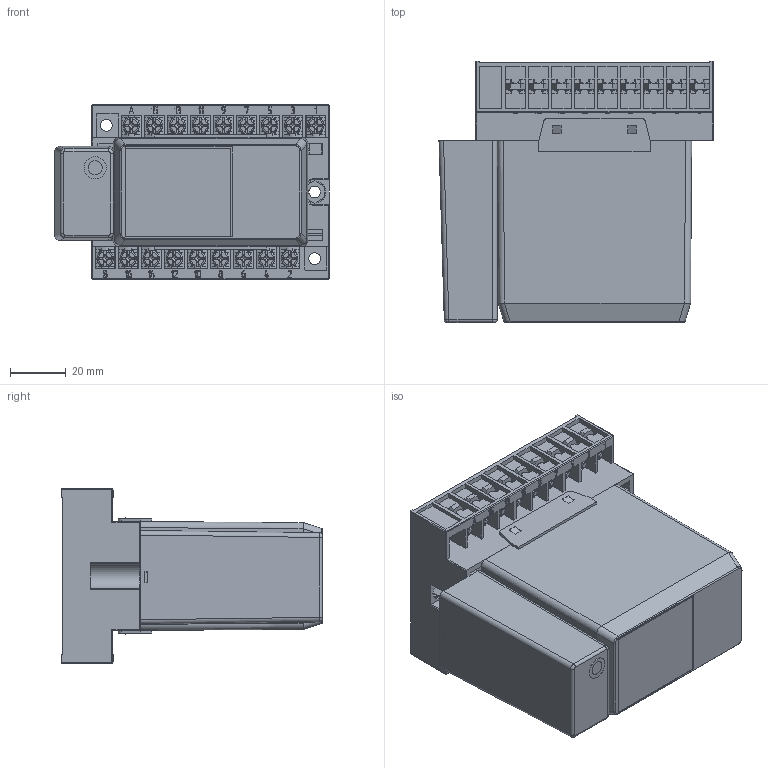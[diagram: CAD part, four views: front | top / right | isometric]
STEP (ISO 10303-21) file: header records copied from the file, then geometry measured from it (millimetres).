
FILE_DESCRIPTION(('STEP AP214'), '1');
FILE_NAME('Èñõ Ðåëå ÐÝÏ38ÄÍ-1 ñ ïðèñòàâêîé (3D çàêàç÷èêàì) 11.02.26', '', ('UNSPECIFIED'), ('UNSPECIFIED'), 'ASCON STEP Converter 1.6', 'ASCON Math Kernel', '');
FILE_SCHEMA(('AUTOMOTIVE_DESIGN { 1 0 10303 214 3 1 1}'));
Length unit declared in the file: millimetre
Bounding box: 98.7 x 94.1 x 63 mm (x, y, z)
Volume: 74898 mm3; surface area: 98217.8 mm2
Topology: 1 solids, 1 shells, 7025 faces, 20367 edges, 13335 vertices
Faces by surface type: plane 3627, cylinder 2794, bspline 284, extrusion 144, cone 108, torus 56, sphere 12
Full cylindrical faces by diameter (mm): 2 x18, 2.45 x36, 3 x18, 3.5 x18, 4.2 x4, 4.4 x2, 5 x1, 8 x3
Entity records: 328805 total; most frequent: CARTESIAN_POINT 89852, ORIENTED_EDGE 40366, DIRECTION 36021, EDGE_CURVE 20183, VERTEX_POINT 13317, VECTOR 12445, LINE 12301, AXIS2_PLACEMENT_3D 11788
